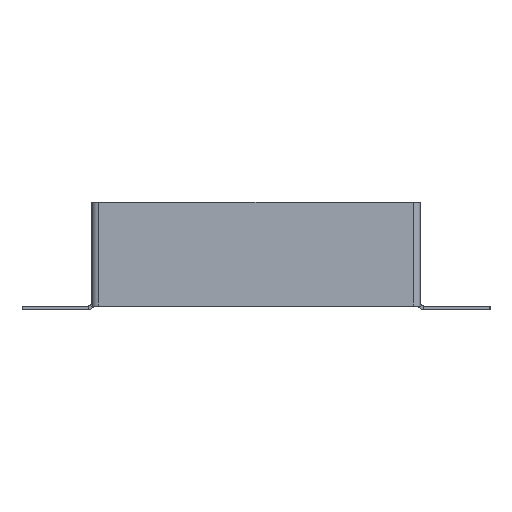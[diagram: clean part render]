
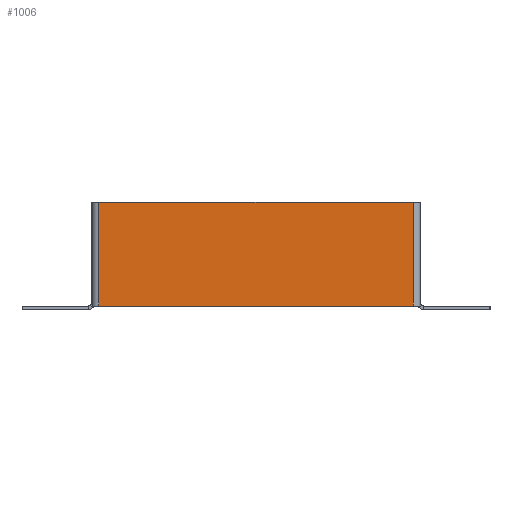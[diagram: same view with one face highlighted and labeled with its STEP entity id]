
A CAD part, front view. The second image highlights one B-rep face of the part: STEP entity #1006.
In plain terms, the highlighted planar face has unit normal (0, -1, 0).
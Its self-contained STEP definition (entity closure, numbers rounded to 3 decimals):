
#106 = DIRECTION ( 'NONE',  ( 0., 0., 1. ) ) ;
#110 = CARTESIAN_POINT ( 'NONE',  ( -90., -2., -58. ) ) ;
#149 = CARTESIAN_POINT ( 'NONE',  ( 88., -2., 0. ) ) ;
#379 = VECTOR ( 'NONE', #106, 1000. ) ;
#468 = LINE ( 'NONE', #3199, #379 ) ;
#828 = PLANE ( 'NONE',  #8007 ) ;
#1006 = ADVANCED_FACE ( 'NONE', ( #4565 ), #828, .F. ) ;
#1194 = LINE ( 'NONE', #110, #6164 ) ;
#1431 = VERTEX_POINT ( 'NONE', #5421 ) ;
#1491 = DIRECTION ( 'NONE',  ( 1., 0., 0. ) ) ;
#1555 = CARTESIAN_POINT ( 'NONE',  ( -88., -2., 0. ) ) ;
#1589 = ORIENTED_EDGE ( 'NONE', *, *, #5558, .F. ) ;
#2061 = EDGE_CURVE ( 'NONE', #3720, #4623, #468, .T. ) ;
#3034 = ORIENTED_EDGE ( 'NONE', *, *, #7276, .F. ) ;
#3199 = CARTESIAN_POINT ( 'NONE',  ( 88., -2., -58. ) ) ;
#3227 = DIRECTION ( 'NONE',  ( -1., 0., 0. ) ) ;
#3720 = VERTEX_POINT ( 'NONE', #4929 ) ;
#3825 = DIRECTION ( 'NONE',  ( 0., 0., 1. ) ) ;
#3944 = VECTOR ( 'NONE', #4665, 1000. ) ;
#4015 = CARTESIAN_POINT ( 'NONE',  ( -90., -2., 0. ) ) ;
#4242 = EDGE_CURVE ( 'NONE', #6853, #1431, #7071, .T. ) ;
#4391 = CARTESIAN_POINT ( 'NONE',  ( -88., -2., 0. ) ) ;
#4498 = ORIENTED_EDGE ( 'NONE', *, *, #4242, .T. ) ;
#4565 = FACE_OUTER_BOUND ( 'NONE', #5950, .T. ) ;
#4623 = VERTEX_POINT ( 'NONE', #149 ) ;
#4665 = DIRECTION ( 'NONE',  ( 0., 0., -1. ) ) ;
#4929 = CARTESIAN_POINT ( 'NONE',  ( 88., -2., -58. ) ) ;
#5205 = CARTESIAN_POINT ( 'NONE',  ( 0., -2., 0. ) ) ;
#5341 = VECTOR ( 'NONE', #1491, 1000. ) ;
#5421 = CARTESIAN_POINT ( 'NONE',  ( -88., -2., -58. ) ) ;
#5558 = EDGE_CURVE ( 'NONE', #3720, #1431, #1194, .T. ) ;
#5950 = EDGE_LOOP ( 'NONE', ( #4498, #1589, #6885, #3034 ) ) ;
#6164 = VECTOR ( 'NONE', #3227, 1000. ) ;
#6777 = DIRECTION ( 'NONE',  ( 0., 1., 0. ) ) ;
#6853 = VERTEX_POINT ( 'NONE', #4391 ) ;
#6885 = ORIENTED_EDGE ( 'NONE', *, *, #2061, .T. ) ;
#6981 = LINE ( 'NONE', #4015, #5341 ) ;
#7071 = LINE ( 'NONE', #1555, #3944 ) ;
#7276 = EDGE_CURVE ( 'NONE', #6853, #4623, #6981, .T. ) ;
#8007 = AXIS2_PLACEMENT_3D ( 'NONE', #5205, #6777, #3825 ) ;
